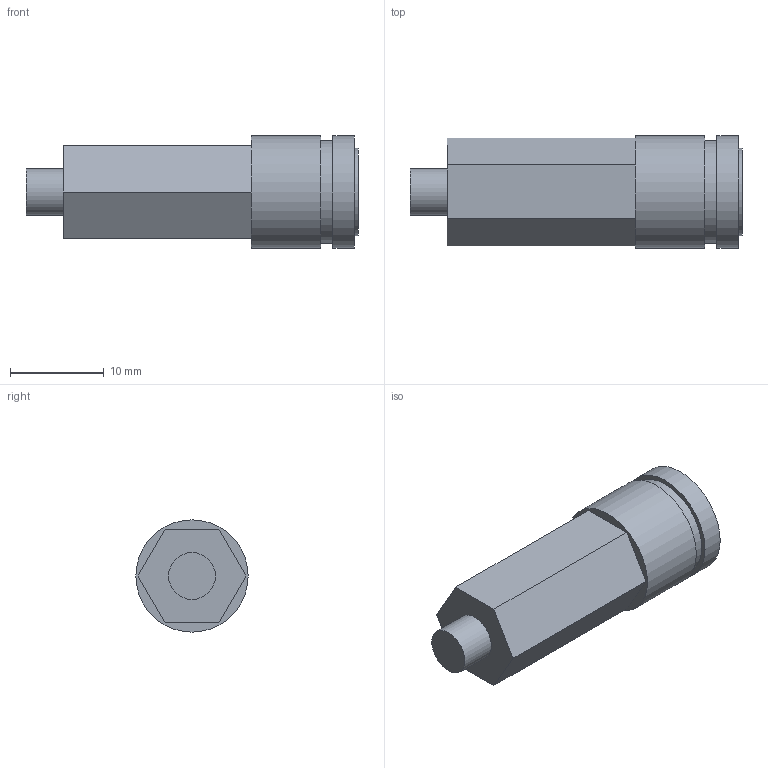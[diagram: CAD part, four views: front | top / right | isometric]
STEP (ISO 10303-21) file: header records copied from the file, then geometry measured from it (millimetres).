
FILE_DESCRIPTION((''),'2;1');
FILE_NAME('\\Sv02\data\客先\あ行\アオイ\99_その他\3D_DATA\CPR_Series\3CPR-SSV-M5\STEP\203\CPR-SSV-M5.stp','2008-07-01T14:46:56',(''),(''),'Autodesk Inventor 2009','Autodesk Inventor 2009','');
FILE_SCHEMA(('CONFIG_CONTROL_DESIGN'));
Length unit declared in the file: millimetre
Products named in the file (1): CPR-SSV-M5
Bounding box: 35.5 x 12 x 12 mm (x, y, z)
Volume: 2523.9 mm3; surface area: 1783.6 mm2
Topology: 1 solids, 1 shells, 20 faces, 36 edges, 24 vertices
Faces by surface type: plane 13, cylinder 5, bspline 2
Full cylindrical faces by diameter (mm): 5 x1, 9.4 x1, 11 x1, 12 x2
Entity records: 492 total; most frequent: CARTESIAN_POINT 95, DIRECTION 80, ORIENTED_EDGE 60, EDGE_LOOP 32, AXIS2_PLACEMENT_3D 31, EDGE_CURVE 30, VERTEX_POINT 24, FACE_OUTER_BOUND 20
